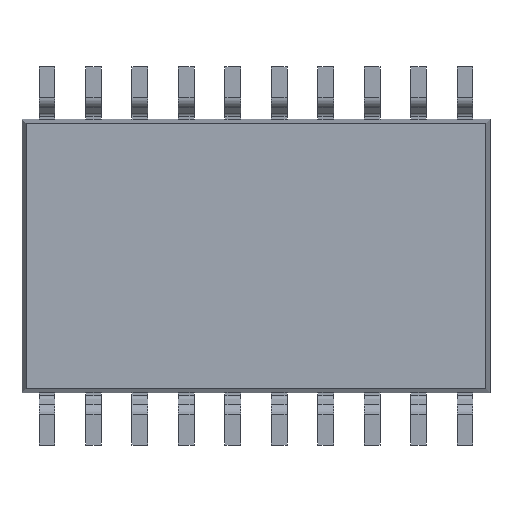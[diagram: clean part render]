
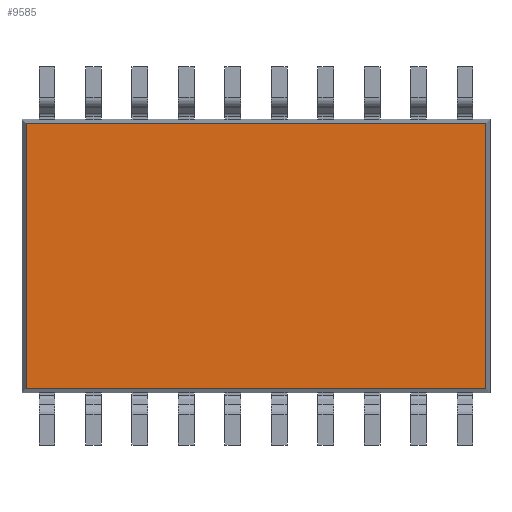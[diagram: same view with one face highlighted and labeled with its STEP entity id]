
A CAD part, front view. The second image highlights one B-rep face of the part: STEP entity #9585.
In plain terms, the highlighted planar face has unit normal (0, -1, 0).
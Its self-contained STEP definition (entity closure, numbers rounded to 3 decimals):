
#9546 = CARTESIAN_POINT ( 'NONE',  ( 6.285, 0.1, -3.63 ) ) ;
#9547 = VERTEX_POINT ( 'NONE', #9546 ) ;
#9548 = CARTESIAN_POINT ( 'NONE',  ( 6.285, 0.1, 3.63 ) ) ;
#9549 = VERTEX_POINT ( 'NONE', #9548 ) ;
#9550 = CARTESIAN_POINT ( 'NONE',  ( 6.285, 0.1, 0. ) ) ;
#9551 = DIRECTION ( 'NONE',  ( 0., 0., 1. ) ) ;
#9552 = VECTOR ( 'NONE', #9551, 1000. ) ;
#9553 = LINE ( 'NONE', #9550, #9552 ) ;
#9554 = EDGE_CURVE ( 'NONE', #9547, #9549, #9553, .T. ) ;
#9555 = ORIENTED_EDGE ( 'NONE', *, *, #9554, .T. ) ;
#9556 = CARTESIAN_POINT ( 'NONE',  ( -6.285, 0.1, 3.63 ) ) ;
#9557 = VERTEX_POINT ( 'NONE', #9556 ) ;
#9558 = CARTESIAN_POINT ( 'NONE',  ( 0., 0.1, 3.63 ) ) ;
#9559 = DIRECTION ( 'NONE',  ( -1., 0., 0. ) ) ;
#9560 = VECTOR ( 'NONE', #9559, 1000. ) ;
#9561 = LINE ( 'NONE', #9558, #9560 ) ;
#9562 = EDGE_CURVE ( 'NONE', #9549, #9557, #9561, .T. ) ;
#9563 = ORIENTED_EDGE ( 'NONE', *, *, #9562, .T. ) ;
#9564 = CARTESIAN_POINT ( 'NONE',  ( -6.285, 0.1, -3.63 ) ) ;
#9565 = VERTEX_POINT ( 'NONE', #9564 ) ;
#9566 = CARTESIAN_POINT ( 'NONE',  ( -6.285, 0.1, 0. ) ) ;
#9567 = DIRECTION ( 'NONE',  ( 0., 0., -1. ) ) ;
#9568 = VECTOR ( 'NONE', #9567, 1000. ) ;
#9569 = LINE ( 'NONE', #9566, #9568 ) ;
#9570 = EDGE_CURVE ( 'NONE', #9557, #9565, #9569, .T. ) ;
#9571 = ORIENTED_EDGE ( 'NONE', *, *, #9570, .T. ) ;
#9572 = CARTESIAN_POINT ( 'NONE',  ( 0., 0.1, -3.63 ) ) ;
#9573 = DIRECTION ( 'NONE',  ( 1., 0., 0. ) ) ;
#9574 = VECTOR ( 'NONE', #9573, 1000. ) ;
#9575 = LINE ( 'NONE', #9572, #9574 ) ;
#9576 = EDGE_CURVE ( 'NONE', #9565, #9547, #9575, .T. ) ;
#9577 = ORIENTED_EDGE ( 'NONE', *, *, #9576, .T. ) ;
#9578 = EDGE_LOOP ( 'NONE', ( #9555, #9563, #9571, #9577 ) ) ;
#9579 = FACE_OUTER_BOUND ( 'NONE', #9578, .T. ) ;
#9580 = CARTESIAN_POINT ( 'NONE',  ( 0., 0.1, 0. ) ) ;
#9581 = DIRECTION ( 'NONE',  ( 0., 1., 0. ) ) ;
#9582 = DIRECTION ( 'NONE',  ( 0., 0., 1. ) ) ;
#9583 = AXIS2_PLACEMENT_3D ( 'NONE', #9580, #9581, #9582 ) ;
#9584 = PLANE ( 'NONE', #9583 ) ;
#9585 = ADVANCED_FACE ( 'NONE', ( #9579 ), #9584, .F. ) ;
